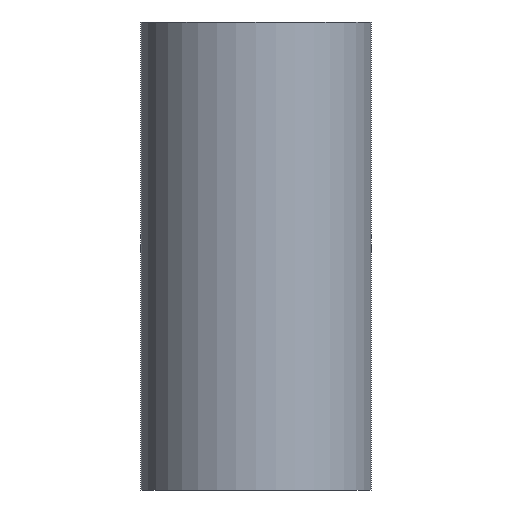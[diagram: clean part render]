
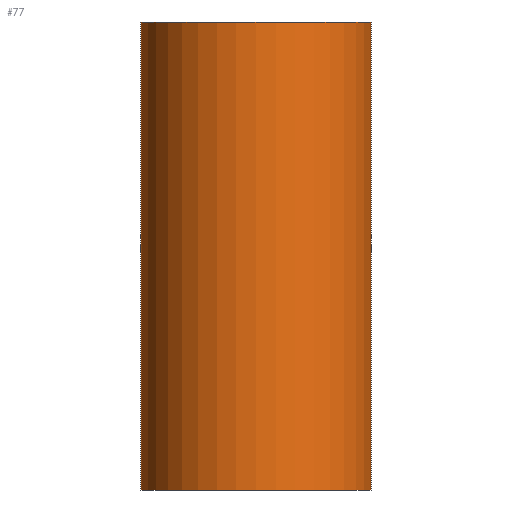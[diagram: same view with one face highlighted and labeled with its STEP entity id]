
A CAD part, front view. The second image highlights one B-rep face of the part: STEP entity #77.
In plain terms, the highlighted cylindrical face has radius 109.537 mm (diameter 219.075 mm), a full revolution.
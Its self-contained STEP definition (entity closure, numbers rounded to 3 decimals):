
#77 = ADVANCED_FACE( '', ( #164, #165 ), #166, .T. );
#164 = FACE_OUTER_BOUND( '', #263, .T. );
#165 = FACE_OUTER_BOUND( '', #264, .T. );
#166 = CYLINDRICAL_SURFACE( '', #265, 109.538 );
#263 = EDGE_LOOP( '', ( #386 ) );
#264 = EDGE_LOOP( '', ( #387 ) );
#265 = AXIS2_PLACEMENT_3D( '', #388, #389, #390 );
#386 = ORIENTED_EDGE( '', *, *, #473, .F. );
#387 = ORIENTED_EDGE( '', *, *, #447, .T. );
#388 = CARTESIAN_POINT( '', ( 0., 0., 12.7 ) );
#389 = DIRECTION( '', ( 0., 0., 1. ) );
#390 = DIRECTION( '', ( -1., 0., 0. ) );
#447 = EDGE_CURVE( '', #497, #497, #498, .T. );
#473 = EDGE_CURVE( '', #537, #537, #538, .T. );
#497 = VERTEX_POINT( '', #566 );
#498 = CIRCLE( '', #567, 109.538 );
#537 = VERTEX_POINT( '', #606 );
#538 = CIRCLE( '', #607, 109.538 );
#566 = CARTESIAN_POINT( '', ( 0., 109.538, 444.5 ) );
#567 = AXIS2_PLACEMENT_3D( '', #635, #636, #637 );
#606 = CARTESIAN_POINT( '', ( 109.538, 0., 0. ) );
#607 = AXIS2_PLACEMENT_3D( '', #677, #678, #679 );
#635 = CARTESIAN_POINT( '', ( 0., 0., 444.5 ) );
#636 = DIRECTION( '', ( 0., 0., -1. ) );
#637 = DIRECTION( '', ( 0., 1., 0. ) );
#677 = CARTESIAN_POINT( '', ( 0., 0., 0. ) );
#678 = DIRECTION( '', ( 0., 0., -1. ) );
#679 = DIRECTION( '', ( 1., 0., 0. ) );
